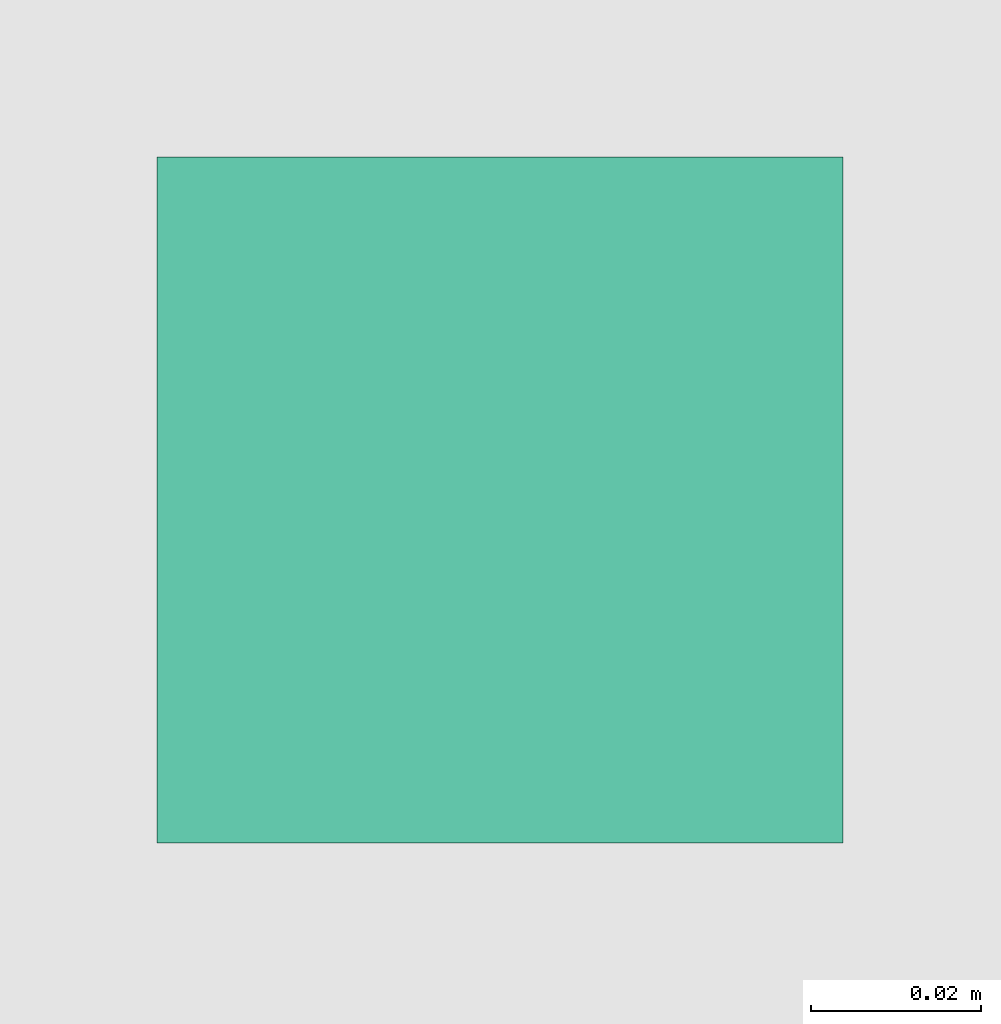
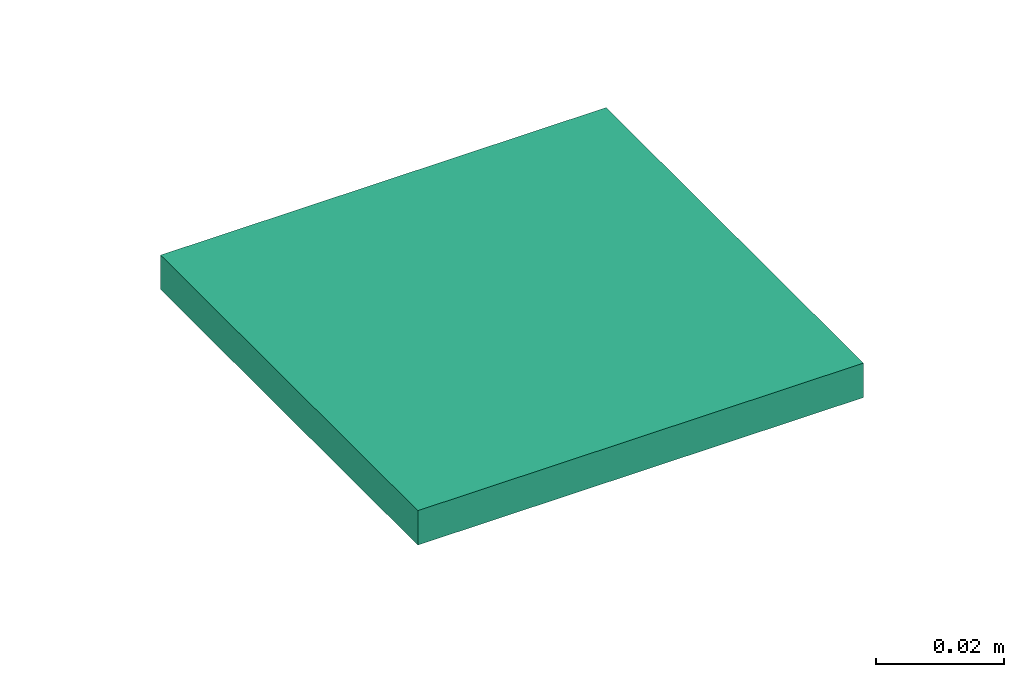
# One storey, part 17 of 146: 1 flow terminal.
"""IFC2X3 building model written with IfcOpenShell, lengths in metres."""

from ifc_helpers import new_model, entity, si_unit, converted_unit, derived_unit, direction, frame, origin, place, context, subcontext, project, spatial, face_set, surface_model, source, transform, mapped, type_object, type_shapes, element, save


model = new_model("IFC2X3")

# Units and contexts
model_context = context("Model", 3, precision=1e-05, world=origin(), true_north=direction((6.12303176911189e-17, 1.0)))
body_context = subcontext(model_context, "Body", "Model", "MODEL_VIEW")
ifc_project = project(units=[si_unit("LENGTHUNIT", "METRE"), si_unit("AREAUNIT", "SQUARE_METRE"), si_unit("VOLUMEUNIT", "CUBIC_METRE"), converted_unit("PLANEANGLEUNIT", "DEGREE", entity("IfcRatioMeasure", 0.0174532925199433), si_unit("PLANEANGLEUNIT", "RADIAN"), dimensions=[0, 0, 0, 0, 0, 0, 0]), si_unit("MASSUNIT", "GRAM", prefix="KILO"), derived_unit("MASSDENSITYUNIT", [(si_unit("MASSUNIT", "GRAM", prefix="KILO"), 1), (si_unit("LENGTHUNIT", "METRE"), -3)]), si_unit("TIMEUNIT", "SECOND"), si_unit("FREQUENCYUNIT", "HERTZ"), si_unit("THERMODYNAMICTEMPERATUREUNIT", "DEGREE_CELSIUS"), derived_unit("THERMALTRANSMITTANCEUNIT", [(si_unit("MASSUNIT", "GRAM", prefix="KILO"), 1), (si_unit("THERMODYNAMICTEMPERATUREUNIT", "KELVIN"), -1), (si_unit("TIMEUNIT", "SECOND"), -3)]), derived_unit("VOLUMETRICFLOWRATEUNIT", [(si_unit("LENGTHUNIT", "METRE"), 3), (si_unit("TIMEUNIT", "SECOND"), -1)]), si_unit("ELECTRICCURRENTUNIT", "AMPERE"), si_unit("ELECTRICVOLTAGEUNIT", "VOLT"), si_unit("POWERUNIT", "WATT"), si_unit("FORCEUNIT", "NEWTON"), si_unit("ILLUMINANCEUNIT", "LUX"), si_unit("LUMINOUSFLUXUNIT", "LUMEN"), si_unit("LUMINOUSINTENSITYUNIT", "CANDELA"), derived_unit("USERDEFINED", [(si_unit("MASSUNIT", "GRAM", prefix="KILO"), -1), (si_unit("LENGTHUNIT", "METRE"), -2), (si_unit("TIMEUNIT", "SECOND"), 3), (si_unit("LUMINOUSFLUXUNIT", "LUMEN"), 1)]), derived_unit("LINEARVELOCITYUNIT", [(si_unit("LENGTHUNIT", "METRE"), 1), (si_unit("TIMEUNIT", "SECOND"), -1)]), si_unit("PRESSUREUNIT", "PASCAL"), derived_unit("USERDEFINED", [(si_unit("LENGTHUNIT", "METRE"), -2), (si_unit("MASSUNIT", "GRAM", prefix="KILO"), 1), (si_unit("TIMEUNIT", "SECOND"), -2)])], contexts=[model_context])

# Site, building, storey
site_placement = place(None, origin())
site = spatial("IfcSite", under=ifc_project, at=site_placement, Name="Default", CompositionType="ELEMENT")
building_placement = place(site_placement, origin())
building = spatial("IfcBuilding", under=site, at=building_placement, CompositionType="ELEMENT")
storey_placement = place(building_placement, origin())
storey = spatial("IfcBuildingStorey", under=building, at=storey_placement, Name="S01", CompositionType="ELEMENT", Elevation=0.0)

# Flow terminal
electric_appliance_type = type_object("IfcElectricApplianceType", Name="Prise vidéo IP20", PredefinedType="NOTDEFINED")
shared_shape = source(origin(), body_context, "Body", "SurfaceModel", [
    surface_model("IfcFaceBasedSurfaceModel", [(0.0, 0.0, 0.010399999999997), (-0.00149999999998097, 0.0, 0.0103999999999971), (0.0, 0.0014999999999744, 0.0103999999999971), (0.00150000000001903, 0.0, 0.010399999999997), (0.0, -0.0015000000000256, 0.010399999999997), (-0.00090957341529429, 0.0, 0.0111393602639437), (0.00090957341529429, 0.0, 0.0111393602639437), (0.0, 0.000588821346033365, 0.0113031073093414), (0.0, 0.0, 0.0114000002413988), (-0.00125418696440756, 0.0, 0.0107078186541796), (0.000378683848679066, 0.0, 0.0112914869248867), (-0.00695404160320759, 0.0, 0.010399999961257), (-0.007177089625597, 0.00169421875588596, 0.010399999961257), (-0.007177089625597, 0.00169421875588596, 0.0114000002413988), (-0.00695404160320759, 0.0, 0.0114000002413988), (-0.00783103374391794, 0.00327297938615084, 0.010399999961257), (-0.00783103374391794, 0.00327297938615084, 0.0114000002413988), (-0.00887130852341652, 0.00462869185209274, 0.010399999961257), (-0.0102270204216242, 0.00566896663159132, 0.010399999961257), (-0.0102270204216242, 0.00566896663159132, 0.0114000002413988), (-0.00887130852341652, 0.00462869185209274, 0.0114000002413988), (-0.0118057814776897, 0.00632291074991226, 0.010399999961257), (-0.0118057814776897, 0.00632291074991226, 0.0114000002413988), (-0.0135000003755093, 0.00654595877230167, 0.0114000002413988), (-0.0135000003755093, 0.00654595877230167, 0.010399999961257), (-0.0151942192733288, 0.00632291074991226, 0.010399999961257), (-0.0151942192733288, 0.00632291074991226, 0.0114000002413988), (-0.0167729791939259, 0.00566896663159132, 0.010399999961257), (-0.0167729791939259, 0.00566896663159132, 0.0114000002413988), (-0.018128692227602, 0.00462869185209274, 0.010399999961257), (-0.0191689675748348, 0.00327297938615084, 0.010399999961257), (-0.0191689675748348, 0.00327297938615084, 0.0114000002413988), (-0.018128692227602, 0.00462869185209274, 0.0114000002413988), (-0.0198229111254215, 0.00169421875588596, 0.010399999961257), (-0.0198229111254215, 0.00169421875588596, 0.0114000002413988), (-0.0200459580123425, 0.0, 0.0114000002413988), (-0.0200459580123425, 0.0, 0.010399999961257), (-0.0198229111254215, -0.00169421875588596, 0.010399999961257), (-0.0198229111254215, -0.00169421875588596, 0.0114000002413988), (-0.0191689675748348, -0.00327297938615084, 0.010399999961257), (-0.0191689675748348, -0.00327297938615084, 0.0114000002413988), (-0.018128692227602, -0.00462869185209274, 0.010399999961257), (-0.0167729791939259, -0.00566896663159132, 0.010399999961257), (-0.0167729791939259, -0.00566896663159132, 0.0114000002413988), (-0.018128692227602, -0.00462869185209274, 0.0114000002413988), (-0.0151942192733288, -0.00632291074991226, 0.010399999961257), (-0.0151942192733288, -0.00632291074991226, 0.0114000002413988), (-0.0135000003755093, -0.00654595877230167, 0.0114000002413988), (-0.0135000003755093, -0.00654595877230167, 0.010399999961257), (-0.0118057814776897, -0.00632291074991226, 0.010399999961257), (-0.0118057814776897, -0.00632291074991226, 0.0114000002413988), (-0.0102270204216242, -0.00566896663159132, 0.010399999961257), (-0.0102270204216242, -0.00566896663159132, 0.0114000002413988), (-0.00887130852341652, -0.00462869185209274, 0.010399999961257), (-0.00783103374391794, -0.00327297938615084, 0.010399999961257), (-0.00783103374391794, -0.00327297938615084, 0.0114000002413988), (-0.00887130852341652, -0.00462869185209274, 0.0114000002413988), (-0.007177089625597, -0.00169421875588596, 0.010399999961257), (-0.007177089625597, -0.00169421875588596, 0.0114000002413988), (-0.00749999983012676, 0.0, 0.010399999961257), (-0.00749999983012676, 0.0, 0.0114000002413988), (-0.00770444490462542, -0.00155291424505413, 0.0114000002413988), (-0.00770444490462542, -0.00155291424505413, 0.010399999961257), (-0.00830384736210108, -0.00299999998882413, 0.0114000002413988), (-0.00830384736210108, -0.00299999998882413, 0.010399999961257), (-0.0092573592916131, -0.00424264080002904, 0.010399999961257), (-0.0092573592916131, -0.00424264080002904, 0.0114000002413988), (-0.0104999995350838, -0.00519615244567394, 0.0114000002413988), (-0.0104999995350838, -0.00519615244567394, 0.010399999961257), (-0.0119470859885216, -0.00579555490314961, 0.0114000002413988), (-0.0119470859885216, -0.00579555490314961, 0.010399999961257), (-0.0135000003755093, -0.00599999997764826, 0.0114000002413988), (-0.0135000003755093, -0.00599999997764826, 0.010399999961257), (-0.015052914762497, -0.00579555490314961, 0.0114000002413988), (-0.015052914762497, -0.00579555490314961, 0.010399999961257), (-0.0165000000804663, -0.00519615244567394, 0.0114000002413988), (-0.0165000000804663, -0.00519615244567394, 0.010399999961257), (-0.0177426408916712, -0.00424264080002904, 0.010399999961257), (-0.0177426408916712, -0.00424264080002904, 0.0114000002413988), (-0.0186961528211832, -0.00299999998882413, 0.0114000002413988), (-0.0186961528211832, -0.00299999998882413, 0.010399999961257), (-0.0192955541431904, -0.00155291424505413, 0.0114000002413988), (-0.0192955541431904, -0.00155291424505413, 0.010399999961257), (-0.0194999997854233, 0.0, 0.0114000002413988), (-0.0194999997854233, 0.0, 0.010399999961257), (-0.0192955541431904, 0.00155291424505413, 0.0114000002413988), (-0.0192955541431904, 0.00155291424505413, 0.010399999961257), (-0.0186961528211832, 0.00299999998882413, 0.0114000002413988), (-0.0186961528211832, 0.00299999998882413, 0.010399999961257), (-0.0177426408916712, 0.00424264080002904, 0.010399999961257), (-0.0177426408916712, 0.00424264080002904, 0.0114000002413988), (-0.0165000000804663, 0.00519615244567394, 0.0114000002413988), (-0.0165000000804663, 0.00519615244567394, 0.010399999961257), (-0.015052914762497, 0.00579555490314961, 0.0114000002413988), (-0.015052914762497, 0.00579555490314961, 0.010399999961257), (-0.0135000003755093, 0.00599999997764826, 0.0114000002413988), (-0.0135000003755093, 0.00599999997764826, 0.010399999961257), (-0.0119470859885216, 0.00579555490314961, 0.0114000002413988), (-0.0119470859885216, 0.00579555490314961, 0.010399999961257), (-0.0104999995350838, 0.00519615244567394, 0.0114000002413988), (-0.0104999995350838, 0.00519615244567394, 0.010399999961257), (-0.0092573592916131, 0.00424264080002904, 0.010399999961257), (-0.0092573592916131, 0.00424264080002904, 0.0114000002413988), (-0.00830384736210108, 0.00299999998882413, 0.0114000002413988), (-0.00830384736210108, 0.00299999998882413, 0.010399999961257), (-0.00770444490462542, 0.00155291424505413, 0.0114000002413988), (-0.00770444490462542, 0.00155291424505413, 0.010399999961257), (0.0200459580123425, 0.0, 0.0114000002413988), (0.0200459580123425, 0.0, 0.010399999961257), (0.0198229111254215, 0.00169421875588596, 0.010399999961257), (0.0198229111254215, 0.00169421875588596, 0.0114000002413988), (0.0191689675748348, 0.00327297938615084, 0.010399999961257), (0.0191689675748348, 0.00327297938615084, 0.0114000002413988), (0.018128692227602, 0.00462869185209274, 0.0114000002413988), (0.018128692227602, 0.00462869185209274, 0.010399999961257), (0.0167729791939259, 0.00566896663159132, 0.010399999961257), (0.0167729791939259, 0.00566896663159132, 0.0114000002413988), (0.0151942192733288, 0.00632291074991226, 0.010399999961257), (0.0151942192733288, 0.00632291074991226, 0.0114000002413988), (0.0135000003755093, 0.00654595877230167, 0.010399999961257), (0.0135000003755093, 0.00654595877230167, 0.0114000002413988), (0.0118057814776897, 0.00632291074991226, 0.0114000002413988), (0.0118057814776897, 0.00632291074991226, 0.010399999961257), (0.0102270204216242, 0.00566896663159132, 0.010399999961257), (0.0102270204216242, 0.00566896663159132, 0.0114000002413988), (0.00887130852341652, 0.00462869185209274, 0.010399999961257), (0.00887130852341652, 0.00462869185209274, 0.0114000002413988), (0.00783103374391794, 0.00327297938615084, 0.0114000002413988), (0.00783103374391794, 0.00327297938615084, 0.010399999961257), (0.007177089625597, 0.00169421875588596, 0.010399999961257), (0.007177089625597, 0.00169421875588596, 0.0114000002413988), (0.00695404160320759, 0.0, 0.010399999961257), (0.00695404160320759, 0.0, 0.0114000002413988), (0.007177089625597, -0.00169421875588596, 0.010399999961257), (0.007177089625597, -0.00169421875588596, 0.0114000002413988), (0.00783103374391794, -0.00327297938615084, 0.010399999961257), (0.00783103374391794, -0.00327297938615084, 0.0114000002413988), (0.00887130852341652, -0.00462869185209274, 0.0114000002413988), (0.00887130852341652, -0.00462869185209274, 0.010399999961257), (0.0102270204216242, -0.00566896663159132, 0.010399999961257), (0.0102270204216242, -0.00566896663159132, 0.0114000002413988), (0.0118057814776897, -0.00632291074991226, 0.010399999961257), (0.0118057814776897, -0.00632291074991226, 0.0114000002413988), (0.0135000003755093, -0.00654595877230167, 0.010399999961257), (0.0135000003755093, -0.00654595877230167, 0.0114000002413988), (0.0151942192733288, -0.00632291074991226, 0.0114000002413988), (0.0151942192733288, -0.00632291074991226, 0.010399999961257), (0.0167729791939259, -0.00566896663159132, 0.010399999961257), (0.0167729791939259, -0.00566896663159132, 0.0114000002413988), (0.018128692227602, -0.00462869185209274, 0.010399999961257), (0.018128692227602, -0.00462869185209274, 0.0114000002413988), (0.0191689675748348, -0.00327297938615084, 0.0114000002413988), (0.0191689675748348, -0.00327297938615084, 0.010399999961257), (0.0198229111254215, -0.00169421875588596, 0.010399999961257), (0.0198229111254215, -0.00169421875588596, 0.0114000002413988), (0.0194999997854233, 0.0, 0.010399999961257), (0.0194999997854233, 0.0, 0.0114000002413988), (0.0192955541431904, -0.00155291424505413, 0.0114000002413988), (0.0192955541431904, -0.00155291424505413, 0.010399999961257), (0.0186961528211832, -0.00299999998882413, 0.0114000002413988), (0.0186961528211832, -0.00299999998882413, 0.010399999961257), (0.0177426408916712, -0.00424264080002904, 0.010399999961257), (0.0177426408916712, -0.00424264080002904, 0.0114000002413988), (0.0165000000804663, -0.00519615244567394, 0.0114000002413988), (0.0165000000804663, -0.00519615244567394, 0.010399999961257), (0.015052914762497, -0.00579555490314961, 0.0114000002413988), (0.015052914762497, -0.00579555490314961, 0.010399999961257), (0.0135000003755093, -0.00599999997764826, 0.0114000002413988), (0.0135000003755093, -0.00599999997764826, 0.010399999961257), (0.0119470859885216, -0.00579555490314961, 0.0114000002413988), (0.0119470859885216, -0.00579555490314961, 0.010399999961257), (0.0104999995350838, -0.00519615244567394, 0.0114000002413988), (0.0104999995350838, -0.00519615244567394, 0.010399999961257), (0.0092573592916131, -0.00424264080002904, 0.010399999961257), (0.0092573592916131, -0.00424264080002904, 0.0114000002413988), (0.00830384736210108, -0.00299999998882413, 0.0114000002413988), (0.00830384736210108, -0.00299999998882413, 0.010399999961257), (0.00770444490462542, -0.00155291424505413, 0.0114000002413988), (0.00770444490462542, -0.00155291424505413, 0.010399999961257), (0.00749999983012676, 0.0, 0.0114000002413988), (0.00749999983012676, 0.0, 0.010399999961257), (0.00770444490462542, 0.00155291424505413, 0.0114000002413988), (0.00770444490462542, 0.00155291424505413, 0.010399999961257), (0.00830384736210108, 0.00299999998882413, 0.0114000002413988), (0.00830384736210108, 0.00299999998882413, 0.010399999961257), (0.0092573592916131, 0.00424264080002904, 0.010399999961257), (0.0092573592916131, 0.00424264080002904, 0.0114000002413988), (0.0104999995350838, 0.00519615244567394, 0.0114000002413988), (0.0104999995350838, 0.00519615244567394, 0.010399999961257), (0.0119470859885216, 0.00579555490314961, 0.0114000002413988), (0.0119470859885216, 0.00579555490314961, 0.010399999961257), (0.0135000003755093, 0.00599999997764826, 0.0114000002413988), (0.0135000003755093, 0.00599999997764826, 0.010399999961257), (0.015052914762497, 0.00579555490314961, 0.0114000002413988), (0.015052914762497, 0.00579555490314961, 0.010399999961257), (0.0165000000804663, 0.00519615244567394, 0.0114000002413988), (0.0165000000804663, 0.00519615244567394, 0.010399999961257), (0.0177426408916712, 0.00424264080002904, 0.010399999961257), (0.0177426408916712, 0.00424264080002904, 0.0114000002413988), (0.0186961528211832, 0.00299999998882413, 0.0114000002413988), (0.0186961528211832, 0.00299999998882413, 0.010399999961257), (0.0192955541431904, 0.00155291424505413, 0.0114000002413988), (0.0192955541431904, 0.00155291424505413, 0.010399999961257), (0.0146999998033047, 0.0, 0.0114000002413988), (0.0146999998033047, 0.0, 0.010399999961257), (0.0146591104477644, 0.000310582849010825, 0.010399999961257), (0.0146591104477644, 0.000310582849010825, 0.0114000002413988), (0.0145392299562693, 0.000599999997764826, 0.010399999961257), (0.0145392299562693, 0.000599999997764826, 0.0114000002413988), (0.0143485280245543, 0.000848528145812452, 0.0114000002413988), (0.0143485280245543, 0.000848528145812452, 0.010399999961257), (0.014100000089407, 0.00103923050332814, 0.010399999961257), (0.014100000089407, 0.00103923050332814, 0.0114000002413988), (0.0138105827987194, 0.00115911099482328, 0.010399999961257), (0.0138105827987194, 0.00115911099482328, 0.0114000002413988), (0.0135000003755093, 0.00119999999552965, 0.010399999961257), (0.0135000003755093, 0.00119999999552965, 0.0114000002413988), (0.0131894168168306, 0.00115911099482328, 0.0114000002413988), (0.0131894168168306, 0.00115911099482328, 0.010399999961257), (0.0128999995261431, 0.00103923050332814, 0.010399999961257), (0.0128999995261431, 0.00103923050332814, 0.0114000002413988), (0.0126514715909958, 0.000848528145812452, 0.010399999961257), (0.0126514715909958, 0.000848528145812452, 0.0114000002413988), (0.0124607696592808, 0.000599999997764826, 0.0114000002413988), (0.0124607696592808, 0.000599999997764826, 0.010399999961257), (0.0123408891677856, 0.000310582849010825, 0.010399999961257), (0.0123408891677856, 0.000310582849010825, 0.0114000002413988), (0.0122999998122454, 0.0, 0.010399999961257), (0.0122999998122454, 0.0, 0.0114000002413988), (0.0123408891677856, -0.000310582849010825, 0.010399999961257), (0.0123408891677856, -0.000310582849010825, 0.0114000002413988), (0.0124607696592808, -0.000599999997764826, 0.010399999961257), (0.0124607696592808, -0.000599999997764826, 0.0114000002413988), (0.0126514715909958, -0.000848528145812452, 0.0114000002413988), (0.0126514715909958, -0.000848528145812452, 0.010399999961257), (0.0128999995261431, -0.00103923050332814, 0.010399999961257), (0.0128999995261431, -0.00103923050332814, 0.0114000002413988), (0.0131894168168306, -0.00115911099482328, 0.010399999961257), (0.0131894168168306, -0.00115911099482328, 0.0114000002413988), (0.0135000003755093, -0.00119999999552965, 0.010399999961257), (0.0135000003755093, -0.00119999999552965, 0.0114000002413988), (0.0138105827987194, -0.00115911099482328, 0.0114000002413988), (0.0138105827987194, -0.00115911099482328, 0.010399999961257), (0.014100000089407, -0.00103923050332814, 0.010399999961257), (0.014100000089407, -0.00103923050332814, 0.0114000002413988), (0.0143485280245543, -0.000848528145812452, 0.010399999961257), (0.0143485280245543, -0.000848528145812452, 0.0114000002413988), (0.0145392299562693, -0.000599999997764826, 0.0114000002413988), (0.0145392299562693, -0.000599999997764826, 0.010399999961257), (0.0146591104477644, -0.000310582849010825, 0.010399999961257), (0.0146591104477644, -0.000310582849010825, 0.0114000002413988), (0.0143945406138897, 0.0, 0.010399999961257), (0.0143945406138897, 0.0, 0.0114000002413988), (0.0143640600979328, -0.000231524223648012, 0.0114000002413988), (0.0143640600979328, -0.000231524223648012, 0.010399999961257), (0.0142746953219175, -0.000447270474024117, 0.0114000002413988), (0.0142746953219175, -0.000447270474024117, 0.010399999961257), (0.014132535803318, -0.000632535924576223, 0.010399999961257), (0.014132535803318, -0.000632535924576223, 0.0114000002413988), (0.0139472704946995, -0.000774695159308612, 0.0114000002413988), (0.0139472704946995, -0.000774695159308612, 0.010399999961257), (0.0137315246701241, -0.000864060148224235, 0.0114000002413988), (0.0137315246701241, -0.000864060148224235, 0.010399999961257), (0.0135000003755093, -0.000894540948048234, 0.0114000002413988), (0.0135000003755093, -0.000894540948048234, 0.010399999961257), (0.0132684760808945, -0.000864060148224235, 0.0114000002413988), (0.0132684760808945, -0.000864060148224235, 0.010399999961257), (0.0130527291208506, -0.000774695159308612, 0.0114000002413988), (0.0130527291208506, -0.000774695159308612, 0.010399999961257), (0.012867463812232, -0.000632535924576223, 0.010399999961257), (0.012867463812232, -0.000632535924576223, 0.0114000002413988), (0.0127253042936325, -0.000447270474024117, 0.0114000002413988), (0.0127253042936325, -0.000447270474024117, 0.010399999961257), (0.0126359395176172, -0.000231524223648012, 0.0114000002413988), (0.0126359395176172, -0.000231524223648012, 0.010399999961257), (0.0126054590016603, 0.0, 0.0114000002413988), (0.0126054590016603, 0.0, 0.010399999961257), (0.0126359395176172, 0.000231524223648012, 0.0114000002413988), (0.0126359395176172, 0.000231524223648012, 0.010399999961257), (0.0127253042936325, 0.000447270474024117, 0.0114000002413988), (0.0127253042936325, 0.000447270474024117, 0.010399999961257), (0.012867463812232, 0.000632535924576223, 0.010399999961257), (0.012867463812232, 0.000632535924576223, 0.0114000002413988), (0.0130527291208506, 0.000774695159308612, 0.0114000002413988), (0.0130527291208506, 0.000774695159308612, 0.010399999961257), (0.0132684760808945, 0.000864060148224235, 0.0114000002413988), (0.0132684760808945, 0.000864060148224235, 0.010399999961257), (0.0135000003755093, 0.000894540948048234, 0.0114000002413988), (0.0135000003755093, 0.000894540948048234, 0.010399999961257), (0.0137315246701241, 0.000864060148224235, 0.0114000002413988), (0.0137315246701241, 0.000864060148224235, 0.010399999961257), (0.0139472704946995, 0.000774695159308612, 0.0114000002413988), (0.0139472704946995, 0.000774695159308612, 0.010399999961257), (0.014132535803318, 0.000632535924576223, 0.010399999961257), (0.014132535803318, 0.000632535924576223, 0.0114000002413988), (0.0142746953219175, 0.000447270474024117, 0.0114000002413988), (0.0142746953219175, 0.000447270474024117, 0.010399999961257), (0.0143640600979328, 0.000231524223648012, 0.0114000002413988), (0.0143640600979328, 0.000231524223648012, 0.010399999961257), (0.0146591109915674, 0.000310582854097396, 0.0113999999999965), (0.0126054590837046, 0.0, 0.0113999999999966), (0.0128674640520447, -0.000632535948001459, 0.0113999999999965), (0.0146591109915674, 0.000310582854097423, 0.0103999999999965), (0.0126054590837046, 0.0, 0.0103999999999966), (0.0128674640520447, -0.000632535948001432, 0.0103999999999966), (0.027000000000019, 0.0269999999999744, 0.0103999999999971), (0.027000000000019, -0.0270000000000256, 0.0103999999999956), (-0.026999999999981, -0.0270000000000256, 0.0103999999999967), (-0.026999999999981, 0.0269999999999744, 0.0103999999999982), (-0.0074999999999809, -0.0170000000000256, 0.0103999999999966), (-0.0074999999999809, -0.0220000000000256, 0.0103999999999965), (0.0075000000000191, -0.0220000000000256, 0.0103999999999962), (0.0075000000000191, -0.0170000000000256, 0.0103999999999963), (0.0270000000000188, 0.0269999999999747, 0.0), (0.0270000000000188, -0.0270000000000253, 0.0), (-0.0269999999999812, -0.0270000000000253, 0.0), (-0.0269999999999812, 0.0269999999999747, 0.0), (0.00750000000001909, -0.0170000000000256, 0.00989999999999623), (0.00750000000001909, -0.0220000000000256, 0.00989999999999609), (-0.00749999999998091, -0.0220000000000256, 0.0098999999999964), (-0.00749999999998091, -0.0170000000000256, 0.00989999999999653), (0.040350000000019, 0.0403499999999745, 0.00659999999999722), (0.040350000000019, -0.0403500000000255, 0.00659999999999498), (-0.0403499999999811, -0.0403500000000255, 0.00659999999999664), (-0.0403499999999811, 0.0403499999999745, 0.00659999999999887), (0.027000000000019, 0.0269999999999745, 0.00659999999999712), (-0.0269999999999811, 0.0269999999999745, 0.00659999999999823), (-0.026999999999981, -0.0270000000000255, 0.00659999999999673), (0.027000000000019, -0.0270000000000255, 0.00659999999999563), (0.027000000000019, 0.0269999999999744, 0.0103999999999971), (-0.026999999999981, 0.0269999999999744, 0.0103999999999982), (-0.026999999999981, -0.0270000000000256, 0.0103999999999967), (0.027000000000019, -0.0270000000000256, 0.0103999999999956), (0.040350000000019, 0.0403499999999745, 0.00659999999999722), (0.040350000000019, -0.0403500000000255, 0.00659999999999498), (-0.0403499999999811, -0.0403500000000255, 0.00659999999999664), (-0.0403499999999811, 0.0403499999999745, 0.00659999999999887), (-0.0269999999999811, 0.0269999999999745, 0.00659999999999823), (-0.0269999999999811, -0.0270000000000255, 0.00659999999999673), (0.0270000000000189, -0.0270000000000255, 0.00659999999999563), (0.0270000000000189, 0.0269999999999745, 0.00659999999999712), (0.0403500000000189, 0.0403499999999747, 0.0), (0.0403500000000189, -0.0403500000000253, 0.0), (-0.0403499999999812, -0.0403500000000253, 0.0), (-0.0403499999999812, 0.0403499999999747, 0.0), (0.0270000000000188, 0.0269999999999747, 0.0), (-0.0269999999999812, 0.0269999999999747, 0.0), (-0.0269999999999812, -0.0270000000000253, 0.0), (0.0270000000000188, -0.0270000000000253, 0.0)], [face_set([[[0, 1, 2, 3]], [[0, 3, 4, 1]], [[1, 5, 2]], [[6, 2, 5]], [[7, 8, 6]], [[6, 3, 2]], [[7, 5, 6]], [[8, 7, 5]], [[6, 4, 3]], [[1, 4, 9]], [[6, 9, 4]], [[5, 9, 6, 10]], [[10, 8, 5]]]), face_set([[[11, 12, 13, 14]], [[12, 15, 16, 13]], [[17, 18, 19, 20]], [[15, 17, 20, 16]], [[18, 21, 22, 19]], [[23, 22, 21, 24]], [[24, 25, 26, 23]], [[25, 27, 28, 26]], [[29, 30, 31, 32]], [[27, 29, 32, 28]], [[30, 33, 34, 31]], [[35, 34, 33, 36]], [[36, 37, 38, 35]], [[37, 39, 40, 38]], [[41, 42, 43, 44]], [[39, 41, 44, 40]], [[42, 45, 46, 43]], [[47, 46, 45, 48]], [[48, 49, 50, 47]], [[49, 51, 52, 50]], [[53, 54, 55, 56]], [[51, 53, 56, 52]], [[54, 57, 58, 55]], [[14, 58, 57, 11]], [[59, 60, 61, 62]], [[62, 61, 63, 64]], [[65, 66, 67, 68]], [[64, 63, 66, 65]], [[68, 67, 69, 70]], [[71, 72, 70, 69]], [[72, 71, 73, 74]], [[74, 73, 75, 76]], [[77, 78, 79, 80]], [[76, 75, 78, 77]], [[80, 79, 81, 82]], [[83, 84, 82, 81]], [[84, 83, 85, 86]], [[86, 85, 87, 88]], [[89, 90, 91, 92]], [[88, 87, 90, 89]], [[92, 91, 93, 94]], [[95, 96, 94, 93]], [[96, 95, 97, 98]], [[98, 97, 99, 100]], [[101, 102, 103, 104]], [[100, 99, 102, 101]], [[104, 103, 105, 106]], [[60, 59, 106, 105]], [[35, 34, 31, 32, 28, 26, 23, 22, 19, 20, 16, 13, 14, 58, 55, 56, 52, 50, 47, 46, 43, 44, 40, 38], [83, 81, 79, 78, 75, 73, 71, 69, 67, 66, 63, 61, 60, 105, 103, 102, 99, 97, 95, 93, 91, 90, 87, 85]], [[36, 33, 30, 29, 27, 25, 24, 21, 18, 17, 15, 12, 11, 57, 54, 53, 51, 49, 48, 45, 42, 41, 39, 37], [84, 82, 80, 77, 76, 74, 72, 70, 68, 65, 64, 62, 59, 106, 104, 101, 100, 98, 96, 94, 92, 89, 88, 86]]]), face_set([[[107, 108, 109, 110]], [[110, 109, 111, 112]], [[113, 114, 115, 116]], [[112, 111, 114, 113]], [[116, 115, 117, 118]], [[119, 120, 118, 117]], [[121, 122, 123, 124]], [[124, 123, 125, 126]], [[127, 128, 129, 130]], [[126, 125, 128, 127]], [[130, 129, 131, 132]], [[122, 121, 120, 119]], [[132, 131, 133, 134]], [[134, 133, 135, 136]], [[137, 138, 139, 140]], [[136, 135, 138, 137]], [[140, 139, 141, 142]], [[143, 144, 142, 141]], [[145, 146, 147, 148]], [[148, 147, 149, 150]], [[151, 152, 153, 154]], [[150, 149, 152, 151]], [[154, 153, 108, 107]], [[146, 145, 144, 143]], [[155, 156, 157, 158]], [[158, 157, 159, 160]], [[161, 162, 163, 164]], [[160, 159, 162, 161]], [[164, 163, 165, 166]], [[167, 168, 166, 165]], [[168, 167, 169, 170]], [[170, 169, 171, 172]], [[173, 174, 175, 176]], [[172, 171, 174, 173]], [[176, 175, 177, 178]], [[179, 180, 178, 177]], [[180, 179, 181, 182]], [[182, 181, 183, 184]], [[185, 186, 187, 188]], [[184, 183, 186, 185]], [[188, 187, 189, 190]], [[191, 192, 190, 189]], [[192, 191, 193, 194]], [[194, 193, 195, 196]], [[197, 198, 199, 200]], [[196, 195, 198, 197]], [[200, 199, 201, 202]], [[156, 155, 202, 201]], [[132, 130, 127, 126, 124, 121, 120, 118, 116, 113, 112, 110, 107, 154, 151, 150, 148, 145, 144, 142, 140, 137, 136, 134], [179, 177, 175, 174, 171, 169, 167, 165, 163, 162, 159, 157, 156, 201, 199, 198, 195, 193, 191, 189, 187, 186, 183, 181]], [[131, 129, 128, 125, 123, 122, 119, 117, 115, 114, 111, 109, 108, 153, 152, 149, 147, 146, 143, 141, 139, 138, 135, 133], [180, 178, 176, 173, 172, 170, 168, 166, 164, 161, 160, 158, 155, 202, 200, 197, 196, 194, 192, 190, 188, 185, 184, 182]]]), face_set([[[203, 204, 205, 206]], [[206, 205, 207, 208]], [[209, 210, 211, 212]], [[208, 207, 210, 209]], [[212, 211, 213, 214]], [[215, 216, 214, 213]], [[217, 218, 219, 220]], [[220, 219, 221, 222]], [[223, 224, 225, 226]], [[222, 221, 224, 223]], [[226, 225, 227, 228]], [[218, 217, 216, 215]], [[228, 227, 229, 230]], [[230, 229, 231, 232]], [[233, 234, 235, 236]], [[232, 231, 234, 233]], [[236, 235, 237, 238]], [[239, 240, 238, 237]], [[241, 242, 243, 244]], [[244, 243, 245, 246]], [[247, 248, 249, 250]], [[246, 245, 248, 247]], [[250, 249, 204, 203]], [[242, 241, 240, 239]], [[251, 252, 253, 254]], [[254, 253, 255, 256]], [[257, 258, 259, 260]], [[256, 255, 258, 257]], [[260, 259, 261, 262]], [[263, 264, 262, 261]], [[264, 263, 265, 266]], [[266, 265, 267, 268]], [[269, 270, 271, 272]], [[268, 267, 270, 269]], [[272, 271, 273, 274]], [[275, 276, 274, 273]], [[276, 275, 277, 278]], [[278, 277, 279, 280]], [[281, 282, 283, 284]], [[280, 279, 282, 281]], [[284, 283, 285, 286]], [[287, 288, 286, 285]], [[288, 287, 289, 290]], [[290, 289, 291, 292]], [[293, 294, 295, 296]], [[292, 291, 294, 293]], [[296, 295, 297, 298]], [[252, 251, 298, 297]], [[228, 226, 223, 222, 220, 217, 216, 214, 212, 209, 208, 299, 203, 250, 247, 246, 244, 241, 240, 238, 236, 233, 232, 230], [300, 273, 271, 301, 267, 265, 263, 261, 259, 258, 255, 253, 252, 297, 295, 294, 291, 289, 287, 285, 283, 282, 279, 277]], [[227, 225, 224, 221, 219, 218, 215, 213, 211, 210, 207, 302, 204, 249, 248, 245, 243, 242, 239, 237, 235, 234, 231, 229], [303, 274, 272, 304, 268, 266, 264, 262, 260, 257, 256, 254, 251, 298, 296, 293, 292, 290, 288, 286, 284, 281, 280, 278]]]), face_set([[[305, 306, 307, 308], [309, 310, 311, 312]], [[313, 314, 315, 316]], [[308, 305, 313, 316]], [[307, 308, 316, 315]], [[306, 307, 315, 314]], [[305, 306, 314, 313]], [[317, 318, 319, 320]], [[320, 317, 312, 309]], [[319, 310, 309, 320]], [[318, 311, 310, 319]], [[317, 312, 311, 318]]]), face_set([[[321, 322, 323, 324], [325, 326, 327, 328]], [[321, 329, 330, 324]], [[324, 330, 331, 323]], [[323, 331, 332, 322]], [[322, 332, 329, 321]], [[325, 326, 330, 329]], [[326, 327, 331, 330]], [[327, 328, 332, 331]], [[329, 332, 328, 325]]]), face_set([[[333, 334, 335, 336], [337, 338, 339, 340]], [[341, 342, 343, 344], [345, 346, 347, 348]], [[336, 333, 341, 344]], [[335, 336, 344, 343]], [[334, 335, 343, 342]], [[333, 334, 342, 341]], [[345, 346, 337, 340]], [[346, 347, 338, 337]], [[347, 348, 339, 338]], [[340, 339, 348, 345]]])]),
])
type_shapes(electric_appliance_type, [shared_shape])
flow_terminal_placement = place(building_placement, frame((27.6856035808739, -189.42983606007, 3.37), z_axis=(0.0, 0.0, -1.0), x_axis=(1.0, 0.0, 0.0)))
element("IfcFlowTerminal", 1, at=flow_terminal_placement, inside=storey, type_object=electric_appliance_type, Name="INT_Prise Vidéo IP20/21:Prise vidéo IP20", ObjectType="INT_Prise Vidéo IP20/21:Prise vidéo IP20", context=body_context, shape_type="MappedRepresentation", body=[
    mapped(shared_shape, transform((0.0, 0.0, 0.0), scale=1.0)),
])

save(model, "model.ifc")
